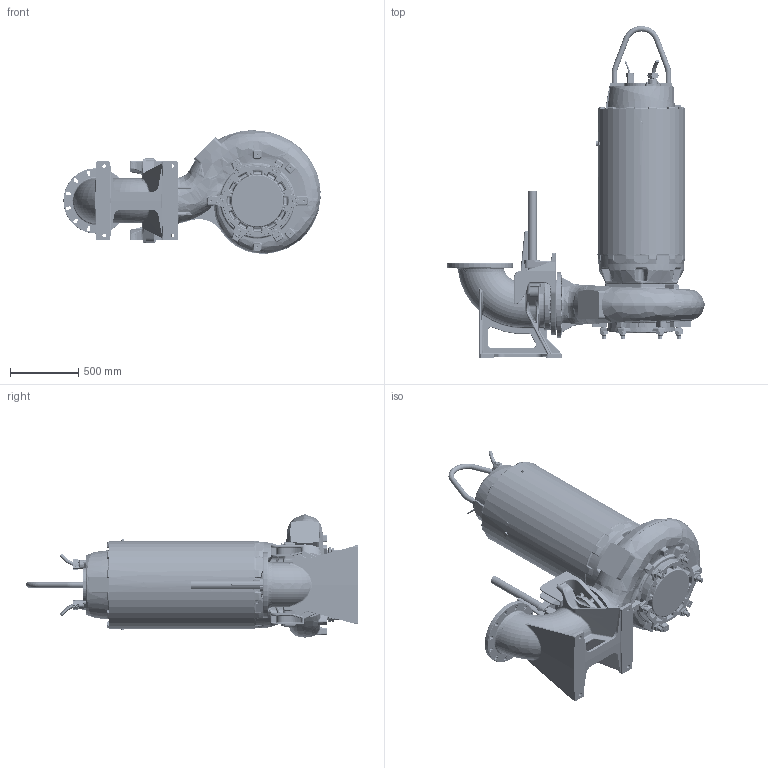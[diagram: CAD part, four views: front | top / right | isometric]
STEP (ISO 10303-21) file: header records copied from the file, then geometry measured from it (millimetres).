
FILE_DESCRIPTION (( 'STEP AP214' ), '1' );
FILE_NAME ('PE6_XFP306M-CB2_WET_A_NG2.STEP', '2017-03-21T12:33:07', ( '' ), ( '' ), 'SwSTEP 2.0', 'SolidWorks 2017', '' );
FILE_SCHEMA (( 'AUTOMOTIVE_DESIGN' ));
Length unit declared in the file: millimetre
Products named in the file (1): PE6_XFP306M-CB2_WET_A_NG2
Bounding box: 1889.63 x 2438 x 906.18 mm (x, y, z)
Volume: 97950710.3 mm3; surface area: 10135561.2 mm2
Topology: 34 solids, 35 shells, 5806 faces, 14219 edges, 8349 vertices
Faces by surface type: bspline 1558, cylinder 1495, plane 1293, torus 659, cone 595, sphere 206
Entity records: 330782 total; most frequent: CARTESIAN_POINT 143549, ORIENTED_EDGE 27888, DIRECTION 23358, EDGE_CURVE 13944, AXIS2_PLACEMENT_3D 9549, VERTEX_POINT 8341, EDGE_LOOP 6121, UNCERTAINTY_MEASURE_WITH_UNIT 5813
